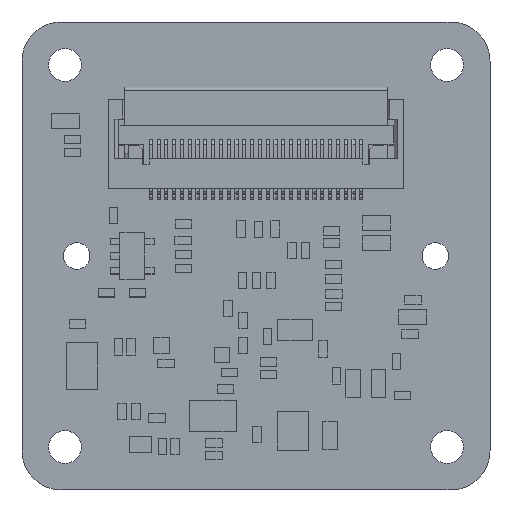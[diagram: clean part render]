
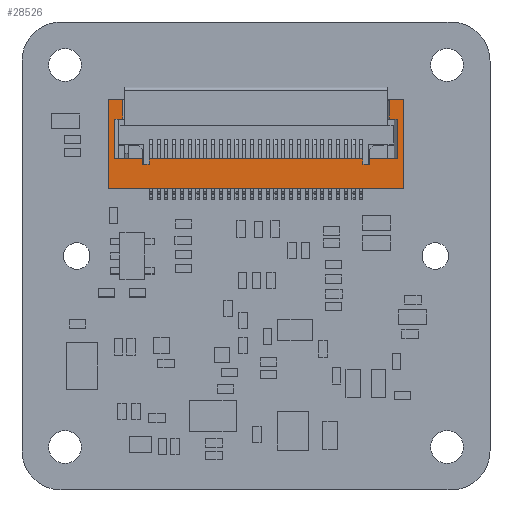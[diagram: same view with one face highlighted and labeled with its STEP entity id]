
A CAD part, top view. The second image highlights one B-rep face of the part: STEP entity #28526.
In plain terms, the highlighted planar face has unit normal (0, 0, 1).
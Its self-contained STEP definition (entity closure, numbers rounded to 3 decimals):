
#1007=FACE_OUTER_BOUND('',#2384,.T.);
#2384=EDGE_LOOP('',(#21172,#21173,#21174,#21175,#21176,#21177,#21178,#21179,
#21180,#21181,#21182,#21183,#21184,#21185,#21186,#21187,#21188,#21189,#21190,
#21191));
#4391=LINE('',#39986,#7958);
#4633=LINE('',#40467,#8200);
#4641=LINE('',#40483,#8208);
#4869=LINE('',#40953,#8436);
#4973=LINE('',#41193,#8540);
#5254=LINE('',#41824,#8821);
#5634=LINE('',#42602,#9201);
#5635=LINE('',#42604,#9202);
#5636=LINE('',#42606,#9203);
#5637=LINE('',#42608,#9204);
#5638=LINE('',#42610,#9205);
#5639=LINE('',#42612,#9206);
#5640=LINE('',#42613,#9207);
#5641=LINE('',#42614,#9208);
#5642=LINE('',#42616,#9209);
#5643=LINE('',#42618,#9210);
#5644=LINE('',#42620,#9211);
#5645=LINE('',#42622,#9212);
#5646=LINE('',#42624,#9213);
#5647=LINE('',#42625,#9214);
#7958=VECTOR('',#32522,1.);
#8200=VECTOR('',#32778,1.);
#8208=VECTOR('',#32786,1.);
#8436=VECTOR('',#33144,1.);
#8540=VECTOR('',#33400,1.);
#8821=VECTOR('',#34071,1.);
#9201=VECTOR('',#34855,1.);
#9202=VECTOR('',#34856,1.);
#9203=VECTOR('',#34857,1.);
#9204=VECTOR('',#34858,1.);
#9205=VECTOR('',#34859,1.);
#9206=VECTOR('',#34860,1.);
#9207=VECTOR('',#34861,1.);
#9208=VECTOR('',#34862,1.);
#9209=VECTOR('',#34863,1.);
#9210=VECTOR('',#34864,1.);
#9211=VECTOR('',#34865,1.);
#9212=VECTOR('',#34866,1.);
#9213=VECTOR('',#34867,1.);
#9214=VECTOR('',#34868,1.);
#11596=VERTEX_POINT('',#39983);
#11597=VERTEX_POINT('',#39985);
#11829=VERTEX_POINT('',#40466);
#11836=VERTEX_POINT('',#40480);
#11837=VERTEX_POINT('',#40482);
#12013=VERTEX_POINT('',#40950);
#12014=VERTEX_POINT('',#40952);
#12073=VERTEX_POINT('',#41191);
#12074=VERTEX_POINT('',#41192);
#12425=VERTEX_POINT('',#42601);
#12426=VERTEX_POINT('',#42603);
#12427=VERTEX_POINT('',#42605);
#12428=VERTEX_POINT('',#42607);
#12429=VERTEX_POINT('',#42609);
#12430=VERTEX_POINT('',#42611);
#12431=VERTEX_POINT('',#42615);
#12432=VERTEX_POINT('',#42617);
#12433=VERTEX_POINT('',#42619);
#12434=VERTEX_POINT('',#42621);
#12435=VERTEX_POINT('',#42623);
#14370=EDGE_CURVE('',#11597,#11596,#4391,.T.);
#14612=EDGE_CURVE('',#11829,#11597,#4633,.T.);
#14620=EDGE_CURVE('',#11837,#11836,#4641,.T.);
#14863=EDGE_CURVE('',#12013,#12014,#4869,.T.);
#14987=EDGE_CURVE('',#12073,#12074,#4973,.T.);
#15310=EDGE_CURVE('',#11829,#12013,#5254,.T.);
#15715=EDGE_CURVE('',#12073,#12425,#5634,.T.);
#15716=EDGE_CURVE('',#12425,#12426,#5635,.T.);
#15717=EDGE_CURVE('',#12427,#12426,#5636,.T.);
#15718=EDGE_CURVE('',#12428,#12427,#5637,.T.);
#15719=EDGE_CURVE('',#12429,#12428,#5638,.T.);
#15720=EDGE_CURVE('',#12429,#12430,#5639,.T.);
#15721=EDGE_CURVE('',#12430,#11837,#5640,.T.);
#15722=EDGE_CURVE('',#11836,#12014,#5641,.T.);
#15723=EDGE_CURVE('',#12431,#11596,#5642,.T.);
#15724=EDGE_CURVE('',#12431,#12432,#5643,.T.);
#15725=EDGE_CURVE('',#12432,#12433,#5644,.T.);
#15726=EDGE_CURVE('',#12433,#12434,#5645,.T.);
#15727=EDGE_CURVE('',#12435,#12434,#5646,.T.);
#15728=EDGE_CURVE('',#12074,#12435,#5647,.T.);
#21172=ORIENTED_EDGE('',*,*,#14987,.F.);
#21173=ORIENTED_EDGE('',*,*,#15715,.T.);
#21174=ORIENTED_EDGE('',*,*,#15716,.T.);
#21175=ORIENTED_EDGE('',*,*,#15717,.F.);
#21176=ORIENTED_EDGE('',*,*,#15718,.F.);
#21177=ORIENTED_EDGE('',*,*,#15719,.F.);
#21178=ORIENTED_EDGE('',*,*,#15720,.T.);
#21179=ORIENTED_EDGE('',*,*,#15721,.T.);
#21180=ORIENTED_EDGE('',*,*,#14620,.T.);
#21181=ORIENTED_EDGE('',*,*,#15722,.T.);
#21182=ORIENTED_EDGE('',*,*,#14863,.F.);
#21183=ORIENTED_EDGE('',*,*,#15310,.F.);
#21184=ORIENTED_EDGE('',*,*,#14612,.T.);
#21185=ORIENTED_EDGE('',*,*,#14370,.T.);
#21186=ORIENTED_EDGE('',*,*,#15723,.F.);
#21187=ORIENTED_EDGE('',*,*,#15724,.T.);
#21188=ORIENTED_EDGE('',*,*,#15725,.T.);
#21189=ORIENTED_EDGE('',*,*,#15726,.T.);
#21190=ORIENTED_EDGE('',*,*,#15727,.F.);
#21191=ORIENTED_EDGE('',*,*,#15728,.F.);
#25816=PLANE('',#30237);
#28526=ADVANCED_FACE('',(#1007),#25816,.F.);
#30237=AXIS2_PLACEMENT_3D('',#42600,#34853,#34854);
#32522=DIRECTION('',(0.,1.,0.));
#32778=DIRECTION('',(-1.,0.,0.));
#32786=DIRECTION('',(-1.,0.,0.));
#33144=DIRECTION('',(1.,0.,0.));
#33400=DIRECTION('',(-1.,0.,0.));
#34071=DIRECTION('',(0.,1.,0.));
#34853=DIRECTION('center_axis',(0.,0.,
-1.));
#34854=DIRECTION('ref_axis',(0.,-1.,0.));
#34855=DIRECTION('',(0.,1.,0.));
#34856=DIRECTION('',(-1.,0.,0.));
#34857=DIRECTION('',(0.,1.,0.));
#34858=DIRECTION('',(-1.,0.,0.));
#34859=DIRECTION('',(0.,1.,0.));
#34860=DIRECTION('',(-1.,0.,0.));
#34861=DIRECTION('',(0.,-1.,0.));
#34862=DIRECTION('',(0.,1.,0.));
#34863=DIRECTION('',(1.,0.,0.));
#34864=DIRECTION('',(0.,1.,0.));
#34865=DIRECTION('',(1.,0.,0.));
#34866=DIRECTION('',(0.,1.,0.));
#34867=DIRECTION('',(1.,0.,0.));
#34868=DIRECTION('',(0.,1.,0.));
#39983=CARTESIAN_POINT('',(7.715,21.225,2.5));
#39985=CARTESIAN_POINT('',(7.715,20.875,2.5));
#39986=CARTESIAN_POINT('',(7.715,25.025,2.5));
#40466=CARTESIAN_POINT('',(8.145,20.875,2.5));
#40467=CARTESIAN_POINT('',(27.645,20.875,2.5));
#40480=CARTESIAN_POINT('',(21.855,20.875,2.5));
#40482=CARTESIAN_POINT('',(22.285,20.875,2.5));
#40483=CARTESIAN_POINT('',(22.175,20.875,2.5));
#40950=CARTESIAN_POINT('',(8.145,21.225,2.5));
#40952=CARTESIAN_POINT('',(21.855,21.225,2.5));
#40953=CARTESIAN_POINT('',(22.645,21.225,2.5));
#41191=CARTESIAN_POINT('',(24.45,19.325,2.5));
#41192=CARTESIAN_POINT('',(5.55,19.325,2.5));
#41193=CARTESIAN_POINT('',(8.145,19.325,2.5));
#41824=CARTESIAN_POINT('',(8.145,25.025,2.5));
#42600=CARTESIAN_POINT('Origin',(12.645,21.225,2.5));
#42601=CARTESIAN_POINT('',(24.45,25.025,2.5));
#42602=CARTESIAN_POINT('',(24.45,25.025,2.5));
#42603=CARTESIAN_POINT('',(23.555,25.025,2.5));
#42604=CARTESIAN_POINT('',(9.355,25.025,2.5));
#42605=CARTESIAN_POINT('',(23.555,23.775,2.5));
#42606=CARTESIAN_POINT('',(23.555,25.025,2.5));
#42607=CARTESIAN_POINT('',(24.05,23.775,2.5));
#42608=CARTESIAN_POINT('',(9.355,23.775,2.5));
#42609=CARTESIAN_POINT('',(24.05,21.225,2.5));
#42610=CARTESIAN_POINT('',(24.05,25.025,2.5));
#42611=CARTESIAN_POINT('',(22.285,21.225,2.5));
#42612=CARTESIAN_POINT('',(9.355,21.225,2.5));
#42613=CARTESIAN_POINT('',(22.285,25.025,2.5));
#42614=CARTESIAN_POINT('',(21.855,25.025,2.5));
#42615=CARTESIAN_POINT('',(5.95,21.225,2.5));
#42616=CARTESIAN_POINT('',(27.645,21.225,2.5));
#42617=CARTESIAN_POINT('',(5.95,23.775,2.5));
#42618=CARTESIAN_POINT('',(5.95,25.025,2.5));
#42619=CARTESIAN_POINT('',(6.445,23.775,2.5));
#42620=CARTESIAN_POINT('',(27.645,23.775,2.5));
#42621=CARTESIAN_POINT('',(6.445,25.025,2.5));
#42622=CARTESIAN_POINT('',(6.445,25.025,2.5));
#42623=CARTESIAN_POINT('',(5.55,25.025,2.5));
#42624=CARTESIAN_POINT('',(27.645,25.025,2.5));
#42625=CARTESIAN_POINT('',(5.55,25.025,2.5));
